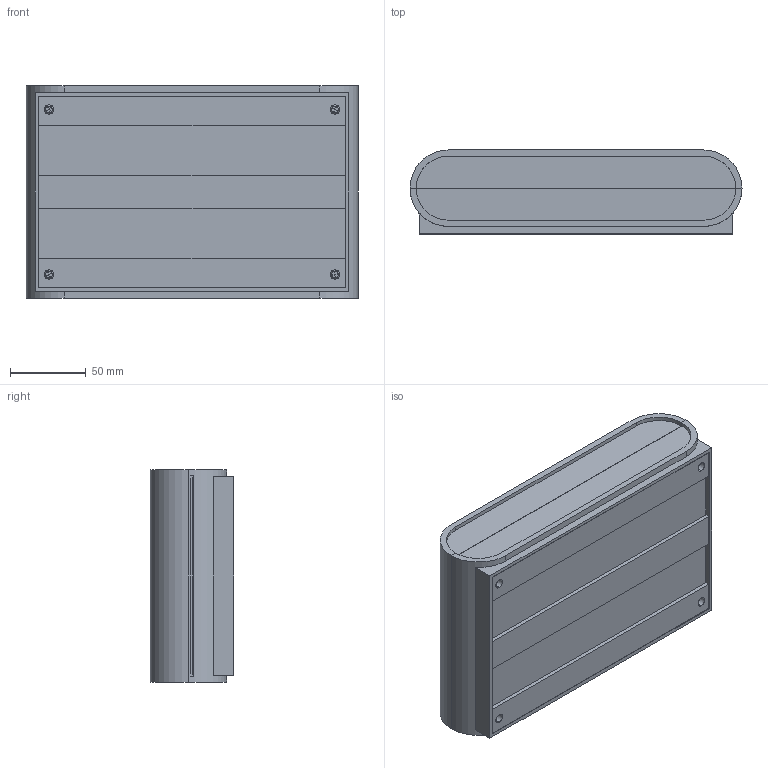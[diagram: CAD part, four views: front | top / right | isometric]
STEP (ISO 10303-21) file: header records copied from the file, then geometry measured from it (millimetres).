
FILE_DESCRIPTION (( 'STEP AP214' ), '1' );
FILE_NAME ('Conjunt PP70.STEP', '2017-11-14T10:13:15', ( 'aaa' ), ( '' ), 'SwSTEP 2.0', 'SolidWorks 2013', '' );
FILE_SCHEMA (( 'AUTOMOTIVE_DESIGN' ));
Length unit declared in the file: millimetre
Products named in the file (7): Conjunt PP70; casquet roscat 70; Cargol M 3x16 PP70; Junta torica PP70; Cargol 2,9x6,5 PP70; Tapa PP70; Cos PP70
Assembly tree (15 placements, depth 2):
  Conjunt PP70
    Cos PP70
    Tapa PP70
    Cargol 2,9x6,5 PP70  x4
    Junta torica PP70
    Cargol M 3x16 PP70  x4
    casquet roscat 70  x4
Bounding box: 219 x 55.2 x 140 mm (x, y, z)
Volume: 299266.3 mm3; surface area: 215504.1 mm2
Topology: 15 solids, 15 shells, 1211 faces, 2590 edges, 1456 vertices
Faces by surface type: cone 760, plane 283, cylinder 144, torus 24
Entity records: 15240 total; most frequent: DIRECTION 2718, CARTESIAN_POINT 2677, ORIENTED_EDGE 2304, EDGE_CURVE 1152, AXIS2_PLACEMENT_3D 1032, VERTEX_POINT 691, VECTOR 654, LINE 654
